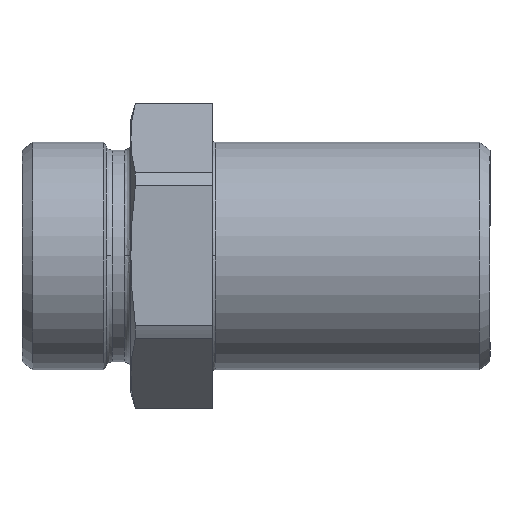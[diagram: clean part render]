
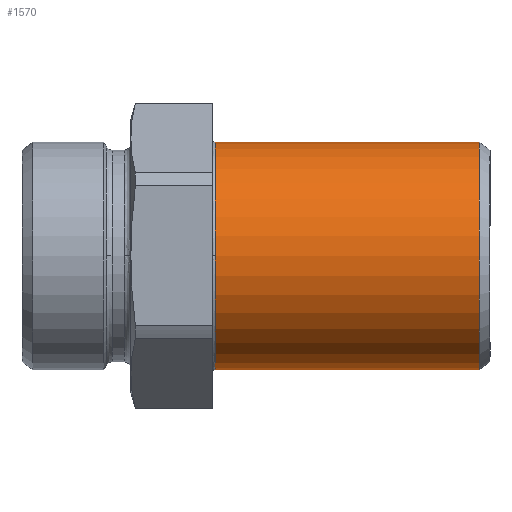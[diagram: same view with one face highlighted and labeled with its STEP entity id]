
A CAD part, top view. The second image highlights one B-rep face of the part: STEP entity #1570.
In plain terms, the highlighted cylindrical face has radius 20.91 mm (diameter 41.82 mm), a partial arc.
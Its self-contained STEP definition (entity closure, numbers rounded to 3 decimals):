
#326=CARTESIAN_POINT('',(0.,-20.91,-8.));
#327=VERTEX_POINT('',#326);
#335=CARTESIAN_POINT('',(20.91,0.,-8.));
#336=VERTEX_POINT('',#335);
#337=CARTESIAN_POINT('',(0.,0.0,-8.));
#338=DIRECTION('',(0.0,0.0,1.0));
#339=DIRECTION('',(0.0,1.0,0.0));
#340=AXIS2_PLACEMENT_3D('',#337,#338,#339);
#341=CIRCLE('',#340,20.91);
#342=EDGE_CURVE('',#327,#336,#341,.T.);
#368=CARTESIAN_POINT('',(0.,20.91,-56.563));
#369=VERTEX_POINT('',#368);
#370=CARTESIAN_POINT('',(0.,20.91,-8.));
#371=VERTEX_POINT('',#370);
#372=CARTESIAN_POINT('',(0.,20.91,-56.563));
#373=DIRECTION('',(0.0,0.0,1.0));
#374=VECTOR('',#373,48.563);
#375=LINE('',#372,#374);
#376=EDGE_CURVE('',#369,#371,#375,.T.);
#378=CARTESIAN_POINT('',(0.,-20.91,-56.563));
#379=VERTEX_POINT('',#378);
#387=CARTESIAN_POINT('',(0.,-20.91,-8.));
#388=DIRECTION('',(0.0,0.0,-1.0));
#389=VECTOR('',#388,48.563);
#390=LINE('',#387,#389);
#391=EDGE_CURVE('',#327,#379,#390,.T.);
#1540=CARTESIAN_POINT('',(0.,0.,-56.563));
#1541=DIRECTION('',(0.0,0.0,1.0));
#1542=DIRECTION('',(0.0,1.0,0.0));
#1543=AXIS2_PLACEMENT_3D('',#1540,#1541,#1542);
#1544=CIRCLE('',#1543,20.91);
#1545=EDGE_CURVE('',#379,#369,#1544,.T.);
#1552=CARTESIAN_POINT('',(0.,0.,-32.281));
#1553=DIRECTION('',(0.,0.,1.0));
#1554=DIRECTION('',(0.0,1.0,0.0));
#1555=AXIS2_PLACEMENT_3D('',#1552,#1553,#1554);
#1556=CYLINDRICAL_SURFACE('',#1555,20.91);
#1557=ORIENTED_EDGE('',*,*,#376,.T.);
#1558=CARTESIAN_POINT('',(0.,0.0,-8.));
#1559=DIRECTION('',(0.0,0.0,1.0));
#1560=DIRECTION('',(0.0,1.0,0.0));
#1561=AXIS2_PLACEMENT_3D('',#1558,#1559,#1560);
#1562=CIRCLE('',#1561,20.91);
#1563=EDGE_CURVE('',#336,#371,#1562,.T.);
#1564=ORIENTED_EDGE('',*,*,#1563,.F.);
#1565=ORIENTED_EDGE('',*,*,#342,.F.);
#1566=ORIENTED_EDGE('',*,*,#391,.T.);
#1567=ORIENTED_EDGE('',*,*,#1545,.T.);
#1568=EDGE_LOOP('',(#1557,#1564,#1565,#1566,#1567));
#1569=FACE_OUTER_BOUND('',#1568,.T.);
#1570=ADVANCED_FACE('',(#1569),#1556,.T.);
